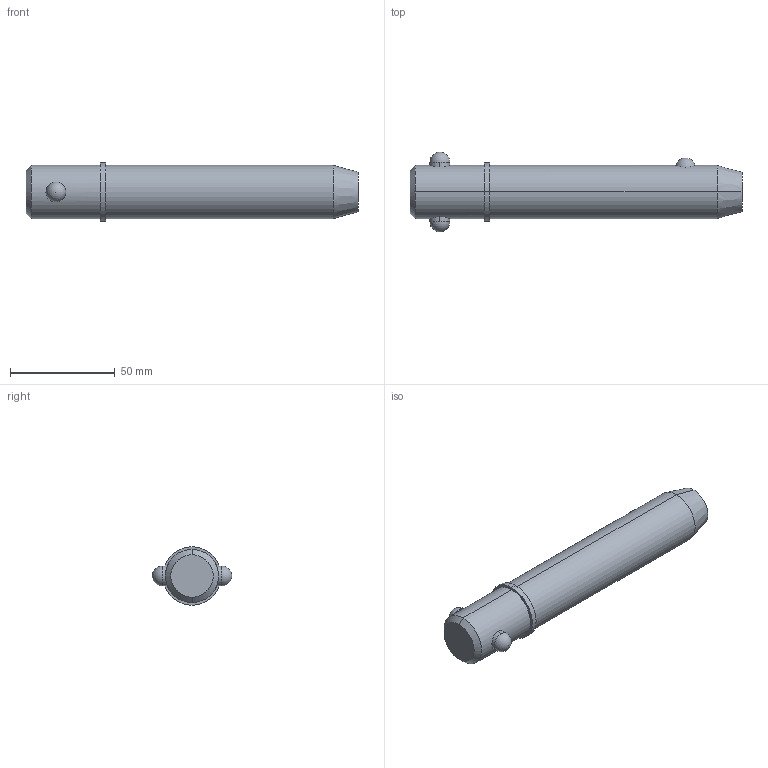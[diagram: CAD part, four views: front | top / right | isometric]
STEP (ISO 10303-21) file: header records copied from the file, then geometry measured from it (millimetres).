
FILE_DESCRIPTION (( 'STEP AP203' ), '1' );
FILE_NAME ('33018.W1035.step', '2024-11-19T17:24:27', ( '' ), ( '' ), 'SwSTEP 2.0', 'SolidWorks 2019', '' );
FILE_SCHEMA (( 'CONFIG_CONTROL_DESIGN' ));
Length unit declared in the file: millimetre
Products named in the file (3): Part2_33018.W1035; 33018.W1035; Part1_33018.W1035
Assembly tree (2 placements, depth 2):
  33018.W1035
    Part1_33018.W1035
    Part2_33018.W1035
Bounding box: 158.75 x 38.1 x 27.94 mm (x, y, z)
Volume: 79965.2 mm3; surface area: 15253 mm2
Topology: 2 solids, 2 shells, 22 faces, 47 edges, 30 vertices
Faces by surface type: cylinder 10, sphere 4, cone 4, plane 4
Entity records: 1071 total; most frequent: CARTESIAN_POINT 314, DIRECTION 110, ORIENTED_EDGE 82, AXIS2_PLACEMENT_3D 48, EDGE_CURVE 41, EDGE_LOOP 27, PERSON_AND_ORGANIZATION 26, VERTEX_POINT 26
